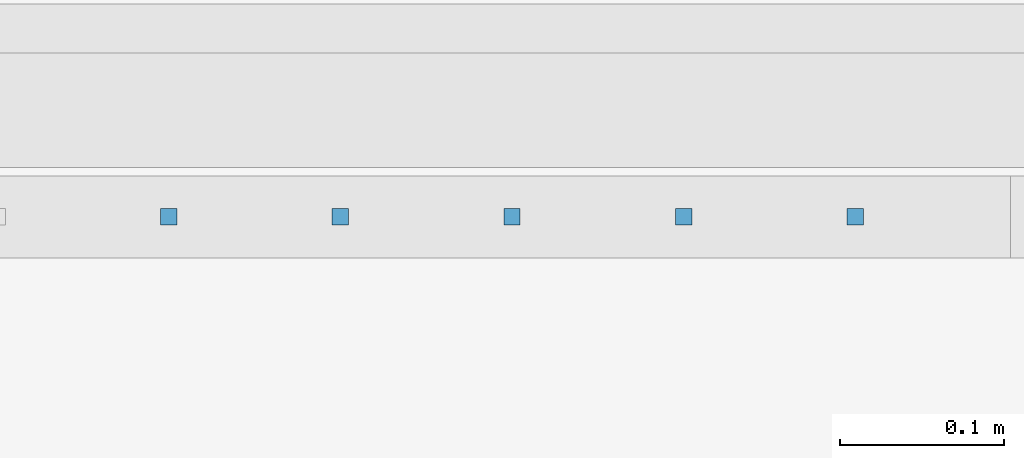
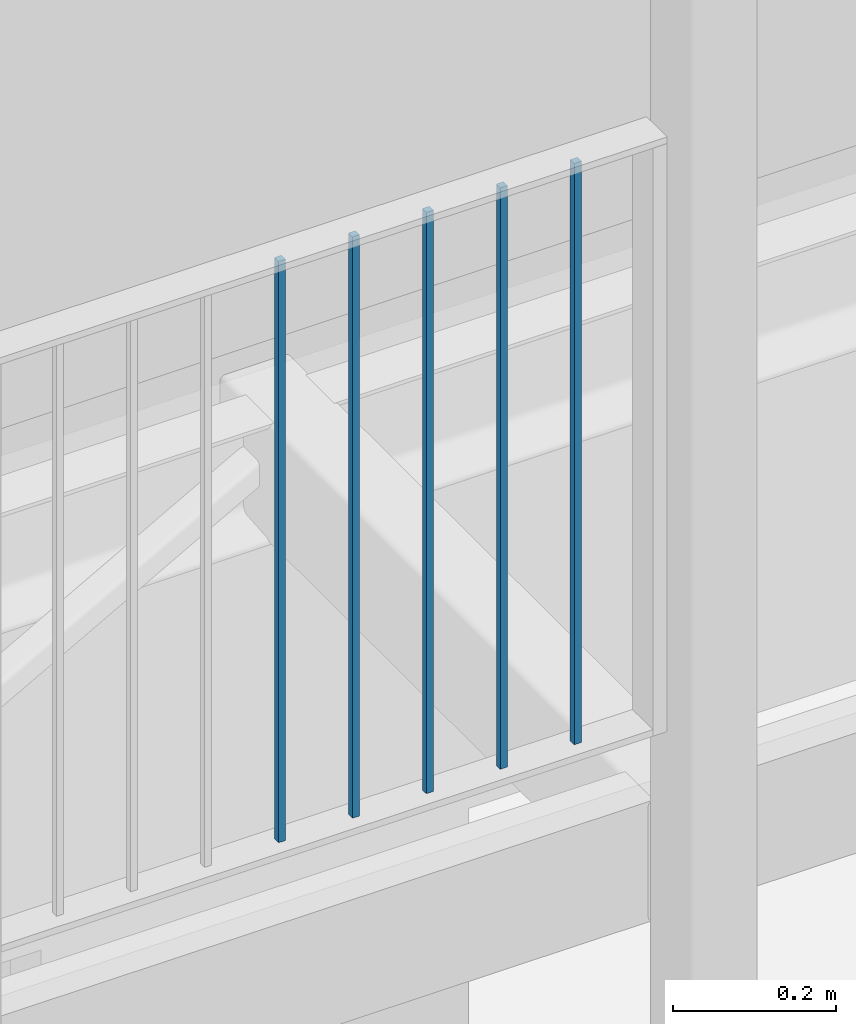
# One storey, part 36 of 78: 5 beams, 1 element without a shape of its own.
"""IFC2X3 building model written with IfcOpenShell, lengths in millimetres."""

from ifc_helpers import new_model, si_unit, frame, origin_with_axes, origin_2d_with_axis, place, context, subcontext, project, spatial, rectangle, extrude, clip, halfspace, material, type_object, element, aggregate, save


model = new_model("IFC2X3")

# Units and contexts
model_context = context("Model", 3, precision=1e-05, world=origin_with_axes())
body_context = subcontext(model_context, "Body", "Model", "MODEL_VIEW")
ifc_project = project(units=[si_unit("LENGTHUNIT", "METRE", prefix="MILLI"), si_unit("AREAUNIT", "SQUARE_METRE"), si_unit("VOLUMEUNIT", "CUBIC_METRE"), si_unit("MASSUNIT", "GRAM", prefix="KILO"), si_unit("TIMEUNIT", "SECOND"), si_unit("PLANEANGLEUNIT", "RADIAN"), si_unit("SOLIDANGLEUNIT", "STERADIAN"), si_unit("THERMODYNAMICTEMPERATUREUNIT", "DEGREE_CELSIUS"), si_unit("LUMINOUSINTENSITYUNIT", "LUMEN")], contexts=[model_context])

# Site, building, storey
site_placement = place(None, origin_with_axes())
site = spatial("IfcSite", under=ifc_project, at=site_placement, Name="Site", CompositionType="ELEMENT")
building_placement = place(site_placement, origin_with_axes())
building = spatial("IfcBuilding", under=site, at=building_placement, Name="Undefined", CompositionType="ELEMENT")
storey_placement = place(building_placement, origin_with_axes())
storey = spatial("IfcBuildingStorey", under=building, at=storey_placement, Name="Undefined", CompositionType="ELEMENT", Elevation=0.0)

# Assembly, beams
assembly_placement = place(storey_placement, origin_with_axes())
assembly = element("IfcElementAssembly", 1, at=assembly_placement, inside=storey, Name="MAIN_COURANTE", AssemblyPlace="NOTDEFINED", PredefinedType="RIGID_FRAME")
ifc_material = material(Name="STEEL/S235JR")
beam_type = type_object("IfcBeamType", Name="PL10*10", PredefinedType="NOTDEFINED")
beam_1_placement = place(assembly_placement, frame((-18954.7222222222, -8643.0, 160995.04), z_axis=(0.0, 1.0, 0.0), x_axis=(0.0, 0.0, -1.0)))
beam_1 = element("IfcBeam", 2, at=beam_1_placement, type_object=beam_type, material=ifc_material, Name="LISSE", ObjectType="PL10*10", context=body_context, shape_type="Clipping", body=[
    clip(clip(extrude(rectangle(XDim=10.0, YDim=10.0, at=origin_2d_with_axis()), frame((880.0, 0.0, 0.0), z_axis=(-1.0, 0.0, 0.0), x_axis=(0.0, -1.0, 0.0)), (0.0, 0.0, 1.0), 880.0), halfspace(frame((875.0, 0.0, 1005.0), z_axis=(1.0, 0.0, 0.0), x_axis=(0.0, 1.0, 0.0)), False)), halfspace(frame((5.0, 0.0, 1005.0), z_axis=(-1.0, 0.0, 0.0), x_axis=(0.0, -1.0, 0.0)), False)),
])
beam_2_placement = place(assembly_placement, frame((-19059.4444444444, -8643.0, 160995.04), z_axis=(0.0, 1.0, 0.0), x_axis=(0.0, 0.0, -1.0)))
beam_2 = element("IfcBeam", 3, at=beam_2_placement, type_object=beam_type, material=ifc_material, Name="LISSE", ObjectType="PL10*10", context=body_context, shape_type="Clipping", body=[
    clip(clip(extrude(rectangle(XDim=10.0, YDim=10.0, at=origin_2d_with_axis()), frame((880.0, 0.0, 0.0), z_axis=(-1.0, 0.0, 0.0), x_axis=(0.0, -1.0, 0.0)), (0.0, 0.0, 1.0), 880.0), halfspace(frame((875.0, 0.0, 1005.0), z_axis=(1.0, 0.0, 0.0), x_axis=(0.0, 1.0, 0.0)), False)), halfspace(frame((5.0, 0.0, 1005.0), z_axis=(-1.0, 0.0, 0.0), x_axis=(0.0, -1.0, 0.0)), False)),
])
beam_3_placement = place(assembly_placement, frame((-19164.1666666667, -8643.0, 160995.04), z_axis=(0.0, 1.0, 0.0), x_axis=(0.0, 0.0, -1.0)))
beam_3 = element("IfcBeam", 4, at=beam_3_placement, type_object=beam_type, material=ifc_material, Name="LISSE", ObjectType="PL10*10", context=body_context, shape_type="Clipping", body=[
    clip(clip(extrude(rectangle(XDim=10.0, YDim=10.0, at=origin_2d_with_axis()), frame((880.0, 0.0, 0.0), z_axis=(-1.0, 0.0, 0.0), x_axis=(0.0, -1.0, 0.0)), (0.0, 0.0, 1.0), 880.0), halfspace(frame((875.0, 0.0, 1005.0), z_axis=(1.0, 0.0, 0.0), x_axis=(0.0, 1.0, 0.0)), False)), halfspace(frame((5.0, 0.0, 1005.0), z_axis=(-1.0, 0.0, 0.0), x_axis=(0.0, -1.0, 0.0)), False)),
])
beam_4_placement = place(assembly_placement, frame((-19373.6111111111, -8643.0, 160995.04), z_axis=(0.0, 1.0, 0.0), x_axis=(0.0, 0.0, -1.0)))
beam_4 = element("IfcBeam", 5, at=beam_4_placement, type_object=beam_type, material=ifc_material, Name="LISSE", ObjectType="PL10*10", context=body_context, shape_type="Clipping", body=[
    clip(clip(extrude(rectangle(XDim=10.0, YDim=10.0, at=origin_2d_with_axis()), frame((880.0, 0.0, 0.0), z_axis=(-1.0, 0.0, 0.0), x_axis=(0.0, -1.0, 0.0)), (0.0, 0.0, 1.0), 880.0), halfspace(frame((875.0, 0.0, 1005.0), z_axis=(1.0, 0.0, 0.0), x_axis=(0.0, 1.0, 0.0)), False)), halfspace(frame((5.0, 0.0, 1005.0), z_axis=(-1.0, 0.0, 0.0), x_axis=(0.0, -1.0, 0.0)), False)),
])
beam_5_placement = place(assembly_placement, frame((-19268.8888888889, -8643.0, 160995.04), z_axis=(0.0, 1.0, 0.0), x_axis=(0.0, 0.0, -1.0)))
beam_5 = element("IfcBeam", 6, at=beam_5_placement, type_object=beam_type, material=ifc_material, Name="LISSE", ObjectType="PL10*10", context=body_context, shape_type="Clipping", body=[
    clip(clip(extrude(rectangle(XDim=10.0, YDim=10.0, at=origin_2d_with_axis()), frame((880.0, 0.0, 0.0), z_axis=(-1.0, 0.0, 0.0), x_axis=(0.0, -1.0, 0.0)), (0.0, 0.0, 1.0), 880.0), halfspace(frame((875.0, 0.0, 1005.0), z_axis=(1.0, 0.0, 0.0), x_axis=(0.0, 1.0, 0.0)), False)), halfspace(frame((5.0, 0.0, 1005.0), z_axis=(-1.0, 0.0, 0.0), x_axis=(0.0, -1.0, 0.0)), False)),
])
aggregate(assembly, [beam_1, beam_2, beam_3, beam_4, beam_5])

save(model, "model.ifc")
